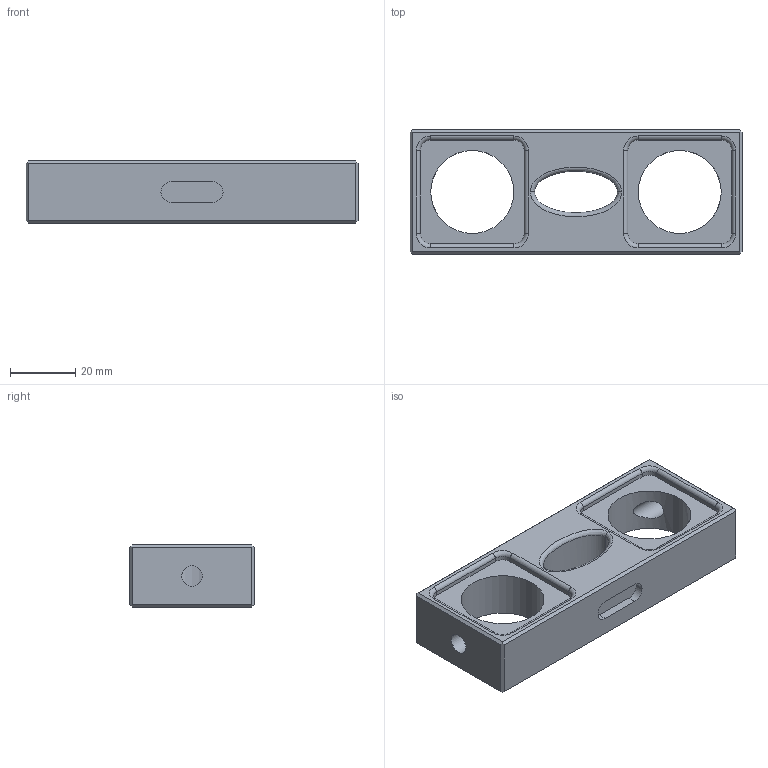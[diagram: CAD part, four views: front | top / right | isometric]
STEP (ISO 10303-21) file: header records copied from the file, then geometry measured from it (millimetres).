
FILE_DESCRIPTION((''),'2;1');
FILE_NAME('G:\advanced cnc class\Mastercam solids\Week 2 tutorial solid.stp','2024-02-02T14:37:43',(''),(''),'STEP Write','Mastercam 2022 ... CNC Software, Inc.','');
FILE_SCHEMA(('AUTOMOTIVE_DESIGN'));
Length unit declared in the file: inch
Products named in the file (1): None
Bounding box: 101.6 x 38.1 x 19.05 mm (x, y, z)
Volume: 42798.7 mm3; surface area: 15108.7 mm2
Topology: 1 solids, 1 shells, 111 faces, 276 edges, 173 vertices
Faces by surface type: cylinder 45, plane 44, torus 16, bspline 6
Full cylindrical faces by diameter (mm): 6.35 x3, 25.4 x2
Entity records: 3804 total; most frequent: CARTESIAN_POINT 996, DIRECTION 578, ORIENTED_EDGE 536, EDGE_CURVE 268, AXIS2_PLACEMENT_3D 214, VERTEX_POINT 170, VECTOR 150, LINE 150
